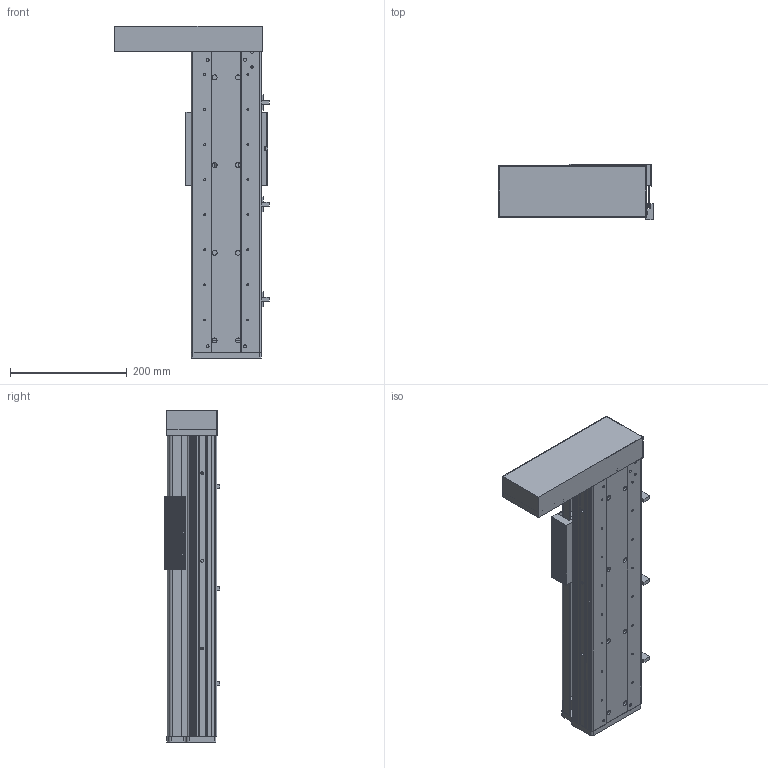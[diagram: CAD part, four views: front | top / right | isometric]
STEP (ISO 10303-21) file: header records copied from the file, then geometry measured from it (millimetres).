
FILE_DESCRIPTION (( 'STEP AP214' ), '1' );
FILE_NAME ('CF120B-C-300-FWL.STEP', '2020-01-15T08:49:33', ( '微软用户' ), ( '微软中国' ), 'SwSTEP 2.0', 'SolidWorks 2016', '' );
FILE_SCHEMA (( 'AUTOMOTIVE_DESIGN' ));
Length unit declared in the file: millimetre
Products named in the file (14): 嫖萇羲壽; 75-86-95癹弇羲壽覜茼え; 120B酘殏殏萇儂啣; CF120-2嘐隅釱 - 萵掛; 殏俔肮祭謫欶; CF120-2耜啣; CF120-2盓厥釱; CF120B裔啣-300; CF120-2-2賑雄啣; CF120-2-1賑雄輸; EGR15絳寢-300; EGH-15-CABZnew; CF120B臏倰第-300; CF120B-C-300-FWL
Assembly tree (19 placements, depth 2):
  CF120B-C-300-FWL
    CF120B臏倰第-300
    EGH-15-CABZnew  x4
    EGR15絳寢-300  x2
    CF120-2-1賑雄輸
    CF120-2-2賑雄啣
    CF120B裔啣-300
    CF120-2盓厥釱
    CF120-2耜啣
    殏俔肮祭謫欶
    CF120-2嘐隅釱 - 萵掛
    120B酘殏殏萇儂啣
    75-86-95癹弇羲壽覜茼え
    嫖萇羲壽  x3
Bounding box: 264.6 x 94.1 x 568 mm (x, y, z)
Volume: 2520567.2 mm3; surface area: 1038051 mm2
Topology: 15 solids, 67 shells, 7228 faces, 27478 edges, 18906 vertices
Faces by surface type: plane 3517, bspline 2348, cylinder 991, cone 148, torus 128, sphere 96
Entity records: 130155 total; most frequent: CARTESIAN_POINT 42152, ORIENTED_EDGE 15142, DIRECTION 11926, EDGE_CURVE 8695, VERTEX_POINT 5955, LINE 5072, VECTOR 5072, AXIS2_PLACEMENT_3D 3427
